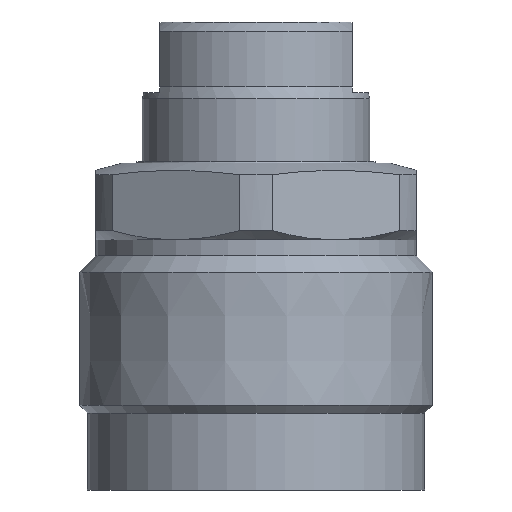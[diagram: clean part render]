
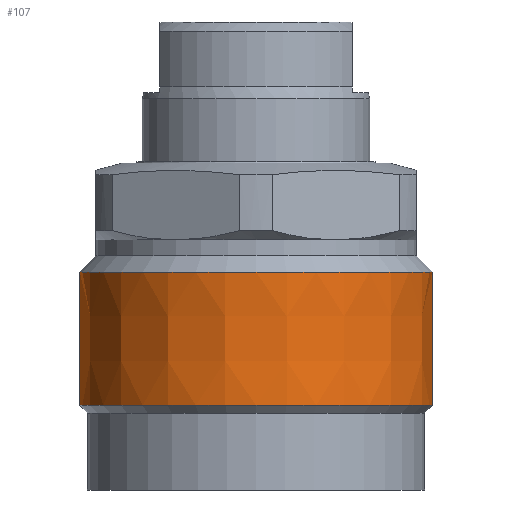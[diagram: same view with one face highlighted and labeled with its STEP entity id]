
A CAD part, front view. The second image highlights one B-rep face of the part: STEP entity #107.
In plain terms, the highlighted conical face has half-angle 0 degrees and reference radius 27.5 mm.
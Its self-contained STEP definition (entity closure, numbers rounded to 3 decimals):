
#88 = EDGE_CURVE ( 'NONE', #486, #483, #2696, .T. ) ;
#89 = EDGE_CURVE ( 'NONE', #484, #482, #2698, .T. ) ;
#107 = ADVANCED_FACE ( 'NONE', ( #1455 ), #2720, .T. ) ;
#219 = VECTOR ( 'NONE', #1561, 1000. ) ;
#220 = VECTOR ( 'NONE', #1555, 1000. ) ;
#443 = EDGE_LOOP ( 'NONE', ( #692, #693, #694, #695 ) ) ;
#482 = VERTEX_POINT ( 'NONE', #1032 ) ;
#483 = VERTEX_POINT ( 'NONE', #1033 ) ;
#484 = VERTEX_POINT ( 'NONE', #1034 ) ;
#486 = VERTEX_POINT ( 'NONE', #1036 ) ;
#692 = ORIENTED_EDGE ( 'NONE', *, *, #816, .F. ) ;
#693 = ORIENTED_EDGE ( 'NONE', *, *, #89, .F. ) ;
#694 = ORIENTED_EDGE ( 'NONE', *, *, #814, .T. ) ;
#695 = ORIENTED_EDGE ( 'NONE', *, *, #88, .T. ) ;
#814 = EDGE_CURVE ( 'NONE', #484, #486, #1548, .T. ) ;
#816 = EDGE_CURVE ( 'NONE', #482, #483, #1557, .T. ) ;
#1032 = CARTESIAN_POINT ( 'NONE',  ( 27.5, 0., -17. ) ) ;
#1033 = CARTESIAN_POINT ( 'NONE',  ( 27.5, 0., -37.8 ) ) ;
#1034 = CARTESIAN_POINT ( 'NONE',  ( -27.5, 0., -17. ) ) ;
#1036 = CARTESIAN_POINT ( 'NONE',  ( -27.5, 0., -37.8 ) ) ;
#1364 = CARTESIAN_POINT ( 'NONE',  ( 0., 0., -37.8 ) ) ;
#1365 = DIRECTION ( 'NONE',  ( 0., 0., 1. ) ) ;
#1366 = DIRECTION ( 'NONE',  ( 1., 0., 0. ) ) ;
#1367 = CARTESIAN_POINT ( 'NONE',  ( 0., 0., -17. ) ) ;
#1368 = DIRECTION ( 'NONE',  ( 0., 0., 1. ) ) ;
#1369 = DIRECTION ( 'NONE',  ( 1., 0., 0. ) ) ;
#1453 = DIRECTION ( 'NONE',  ( -1., 0., 0. ) ) ;
#1455 = FACE_OUTER_BOUND ( 'NONE', #443, .T. ) ;
#1456 = DIRECTION ( 'NONE',  ( 0., 0., -1. ) ) ;
#1458 = CARTESIAN_POINT ( 'NONE',  ( 0., 0., -37.8 ) ) ;
#1542 = CARTESIAN_POINT ( 'NONE',  ( -27.5, 0., -37.8 ) ) ;
#1548 = LINE ( 'NONE', #1542, #220 ) ;
#1551 = CARTESIAN_POINT ( 'NONE',  ( 27.5, 0., -37.8 ) ) ;
#1555 = DIRECTION ( 'NONE',  ( 0., 0., -1. ) ) ;
#1557 = LINE ( 'NONE', #1551, #219 ) ;
#1561 = DIRECTION ( 'NONE',  ( 0., 0., -1. ) ) ;
#2696 = CIRCLE ( 'NONE', #2701, 27.5 ) ;
#2698 = CIRCLE ( 'NONE', #2703, 27.5 ) ;
#2701 = AXIS2_PLACEMENT_3D ( 'NONE', #1364, #1365, #1366 ) ;
#2703 = AXIS2_PLACEMENT_3D ( 'NONE', #1367, #1368, #1369 ) ;
#2720 = CONICAL_SURFACE ( 'NONE', #2721, 27.5, 0. ) ;
#2721 = AXIS2_PLACEMENT_3D ( 'NONE', #1458, #1456, #1453 ) ;
